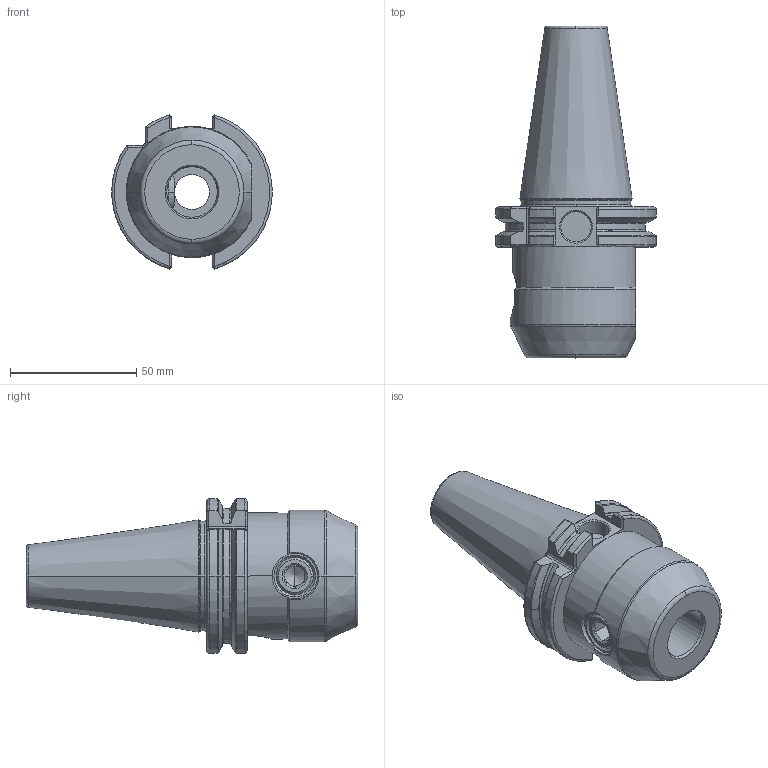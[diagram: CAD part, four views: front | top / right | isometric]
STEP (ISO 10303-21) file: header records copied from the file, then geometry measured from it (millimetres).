
FILE_DESCRIPTION (( 'STEP AP214' ), '1' );
FILE_NAME ('04-0523.STEP', '2022-02-02T18:29:15', ( '' ), ( '' ), 'SwSTEP 2.0', 'SolidWorks 2021', '' );
FILE_SCHEMA (( 'AUTOMOTIVE_DESIGN' ));
Length unit declared in the file: inch
Products named in the file (1): 04-0523
Bounding box: 63.55 x 131.4 x 61.05 mm (x, y, z)
Volume: 164933.3 mm3; surface area: 30401.7 mm2
Topology: 1 solids, 1 shells, 200 faces, 529 edges, 334 vertices
Faces by surface type: plane 59, cylinder 48, cone 44, torus 32, bspline 17
Entity records: 10189 total; most frequent: CARTESIAN_POINT 2799, ORIENTED_EDGE 1050, DIRECTION 954, EDGE_CURVE 525, AXIS2_PLACEMENT_3D 376, VERTEX_POINT 334, EDGE_LOOP 209, LENGTH_MEASURE_WITH_UNIT 203
